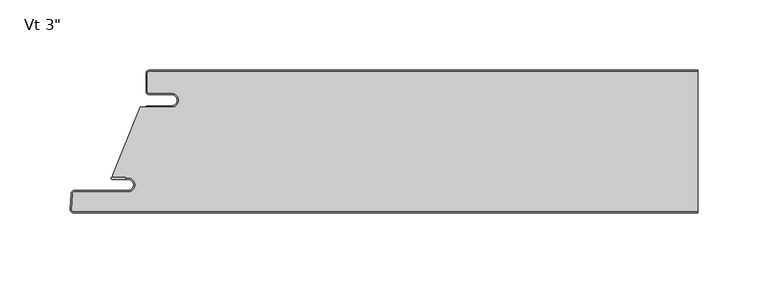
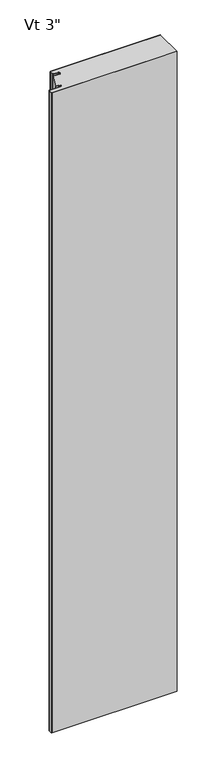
"""IFC4 building model written with IfcOpenShell, lengths in millimetres: plate geometry."""

from ifc_helpers import new_model, si_unit, point, frame_2d, origin, origin_with_axes, place, context, project, spatial, polyline, circle_curve, trimmed, segment, composite_curve, outline, extrude, source, transform, mapped, element, save


def plate_4bd44487(model_context):
    return source(origin(), model_context, "Body", "SweptSolid", [
        extrude(outline(composite_curve([segment(polyline([(-177.5437498, -16.4625), (-193.4187498, -16.4625)]), True, "CONTINUOUS"), segment(trimmed(circle_curve(frame_2d((-193.4187498, -15.08125)), 1.38125), [point((-193.4187498, -16.4625))], [point((-194.7999998, -15.08125))], False, "CARTESIAN"), True, "CONTINUOUS"), segment(polyline([(-194.7999998, -15.08125), (-194.7999998, -2.38125)]), True, "CONTINUOUS"), segment(trimmed(circle_curve(frame_2d((-193.4187498, -2.38125)), 1.38125), [point((-194.7999998, -2.38125))], [point((-193.4187498, -1.0))], False, "CARTESIAN"), True, "CONTINUOUS"), segment(polyline([(-193.4187498, -1.0), (196.6062498, -1.0), (196.6062498, -100.6), (-247.2799534, -100.6)]), True, "CONTINUOUS"), segment(trimmed(circle_curve(frame_2d((-247.2799534, -99.21875)), 1.38125), [point((-247.2799534, -100.6))], [point((-248.6593104, -99.146461))], False, "CARTESIAN"), True, "CONTINUOUS"), segment(polyline([(-248.6593104, -99.146461), (-248.076929, -88.033961)]), True, "CONTINUOUS"), segment(trimmed(circle_curve(frame_2d((-246.6975719, -88.10625)), 1.38125), [point((-248.076929, -88.033961))], [point((-246.6975719, -86.725))], False, "CARTESIAN"), True, "CONTINUOUS"), segment(polyline([(-246.6975719, -86.725), (-208.5142673, -86.725)]), True, "CONTINUOUS"), segment(trimmed(circle_curve(frame_2d((-208.5142673, -81.75625)), 4.96875), [point((-208.5142673, -86.725))], [point((-208.5142673, -76.7875))], True, "CARTESIAN"), True, "CONTINUOUS"), segment(polyline([(-208.5142673, -76.7875), (-210.1017673, -76.99375), (-210.1017673, -76.2), (-219.6124998, -76.2), (-219.6124998, -74.6157227), (-199.7260921, -26.4), (-177.5437498, -26.4)]), True, "CONTINUOUS"), segment(trimmed(circle_curve(frame_2d((-177.5437498, -21.43125)), 4.96875), [point((-177.5437498, -26.4))], [point((-177.5437498, -16.4625))], True, "CARTESIAN"), True, "CONTINUOUS")], self_intersect=False)), origin_with_axes(), (0.0, 0.0, 1.0), 2400.0),
        extrude(outline(composite_curve([segment(polyline([(-195.7999998, -25.4), (-177.5437498, -25.4)]), True, "CONTINUOUS"), segment(trimmed(circle_curve(frame_2d((-177.5437498, -21.43125)), 3.96875), [point((-177.5437498, -25.4))], [point((-177.5437498, -17.4625))], True, "CARTESIAN"), True, "CONTINUOUS"), segment(polyline([(-177.5437498, -17.4625), (-193.4187498, -17.4625)]), True, "CONTINUOUS"), segment(trimmed(circle_curve(frame_2d((-193.4187498, -15.08125)), 2.38125), [point((-193.4187498, -17.4625))], [point((-195.7999998, -15.08125))], False, "CARTESIAN"), True, "CONTINUOUS"), segment(polyline([(-195.7999998, -15.08125), (-195.7999998, -2.38125)]), True, "CONTINUOUS"), segment(trimmed(circle_curve(frame_2d((-193.4187498, -2.38125)), 2.38125), [point((-195.7999998, -2.38125))], [point((-193.4187498, 0.0))], False, "CARTESIAN"), True, "CONTINUOUS"), segment(polyline([(-193.4187498, 0.0), (196.6062498, 0.0), (196.6062498, -1.0), (-193.4187498, -1.0)]), True, "CONTINUOUS"), segment(trimmed(circle_curve(frame_2d((-193.4187498, -2.38125)), 1.38125), [point((-193.4187498, -1.0))], [point((-194.7999998, -2.38125))], True, "CARTESIAN"), True, "CONTINUOUS"), segment(polyline([(-194.7999998, -2.38125), (-194.7999998, -15.08125)]), True, "CONTINUOUS"), segment(trimmed(circle_curve(frame_2d((-193.4187498, -15.08125)), 1.38125), [point((-194.7999998, -15.08125))], [point((-193.4187498, -16.4625))], True, "CARTESIAN"), True, "CONTINUOUS"), segment(polyline([(-193.4187498, -16.4625), (-177.5437498, -16.4625)]), True, "CONTINUOUS"), segment(trimmed(circle_curve(frame_2d((-177.5437498, -21.43125)), 4.96875), [point((-177.5437498, -16.4625))], [point((-177.5437498, -26.4))], False, "CARTESIAN"), True, "CONTINUOUS"), segment(polyline([(-177.5437498, -26.4), (-195.7999998, -26.4), (-195.7999998, -25.4)]), True, "CONTINUOUS")], self_intersect=False)), origin_with_axes(), (0.0, 0.0, 1.0), 2400.0),
        extrude(outline(composite_curve([segment(polyline([(-219.8252048, -76.2), (-210.1017673, -76.2), (-210.1017673, -76.99375), (-208.5142673, -76.7875)]), True, "CONTINUOUS"), segment(trimmed(circle_curve(frame_2d((-208.5142673, -81.75625)), 4.96875), [point((-208.5142673, -76.7875))], [point((-208.5142673, -86.725))], False, "CARTESIAN"), True, "CONTINUOUS"), segment(polyline([(-208.5142673, -86.725), (-246.6975719, -86.725)]), True, "CONTINUOUS"), segment(trimmed(circle_curve(frame_2d((-246.6975719, -88.10625)), 1.38125), [point((-246.6975719, -86.725))], [point((-248.076929, -88.033961))], True, "CARTESIAN"), True, "CONTINUOUS"), segment(polyline([(-248.076929, -88.033961), (-248.6593104, -99.146461)]), True, "CONTINUOUS"), segment(trimmed(circle_curve(frame_2d((-247.2799534, -99.21875)), 1.38125), [point((-248.6593104, -99.146461))], [point((-247.2799534, -100.6))], True, "CARTESIAN"), True, "CONTINUOUS"), segment(polyline([(-247.2799534, -100.6), (196.6062498, -100.6), (196.6062498, -101.6), (-247.2799534, -101.6)]), True, "CONTINUOUS"), segment(trimmed(circle_curve(frame_2d((-247.2799534, -99.21875)), 2.38125), [point((-247.2799534, -101.6))], [point((-249.6579399, -99.094125))], False, "CARTESIAN"), True, "CONTINUOUS"), segment(polyline([(-249.6579399, -99.094125), (-249.0755585, -87.981625)]), True, "CONTINUOUS"), segment(trimmed(circle_curve(frame_2d((-246.6975719, -88.10625)), 2.38125), [point((-249.0755585, -87.981625))], [point((-246.6975719, -85.725))], False, "CARTESIAN"), True, "CONTINUOUS"), segment(polyline([(-246.6975719, -85.725), (-208.5142673, -85.725)]), True, "CONTINUOUS"), segment(trimmed(circle_curve(frame_2d((-208.5142673, -81.75625)), 3.96875), [point((-208.5142673, -85.725))], [point((-208.5142673, -77.7875))], True, "CARTESIAN"), True, "CONTINUOUS"), segment(polyline([(-208.5142673, -77.7875), (-219.8252048, -77.7875)]), True, "CONTINUOUS"), segment(trimmed(circle_curve(frame_2d((-219.8252048, -76.99375)), 0.79375), [point((-219.8252048, -77.7875))], [point((-219.8252048, -76.2))], False, "CARTESIAN"), True, "CONTINUOUS")], self_intersect=False)), origin_with_axes(), (0.0, 0.0, 1.0), 2400.0),
    ])


if __name__ == "__main__":
    model = new_model("IFC4")
    model_context = context("Model", 3, world=origin())
    ifc_project = project(units=[si_unit("LENGTHUNIT", "METRE", prefix="MILLI")], contexts=[model_context])
    site = spatial("IfcSite", under=ifc_project)
    building = spatial("IfcBuilding", under=site)
    placement = place(None, origin())
    plate_shape = plate_4bd44487(model_context)
    element("IfcPlate", 1, ObjectType="KIP-42-DWTR-R19-CP-Vt-F : Vt 3\"", at=placement, inside=building, context=model_context, shape_type="MappedRepresentation", body=[
        mapped(plate_shape, transform((0.0, 0.0, 0.0), x_axis=(1.0, 0.0, 0.0), y_axis=(0.0, 1.0, 0.0), z_axis=(0.0, 0.0, 1.0))),
    ])
    save(model, "model.ifc")
